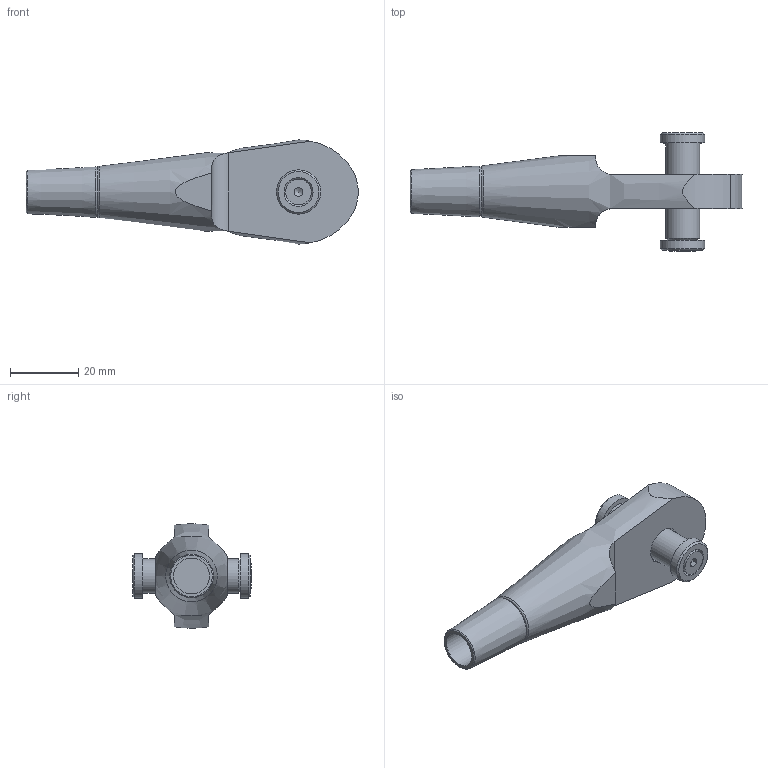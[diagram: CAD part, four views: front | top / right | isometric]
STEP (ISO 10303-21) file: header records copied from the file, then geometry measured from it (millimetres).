
FILE_DESCRIPTION(/* description */ (''),/* implementation_level */ '2;1');
FILE_NAME(/* name */ 'G:\Engineering\700 CAD\Internet-PX-1-step-igs-dxf\520-OES-Arbeitsdateien\520-010-OES.stp',/* time_stamp */ '2020-06-26T10:07:34+02:00',/* author */ ('schwarz'),/* organization */ (''),/* preprocessor_version */ 'ST-DEVELOPER v16.1',/* originating_system */ 'Autodesk Inventor 2016',/* authorisation */ '');
FILE_SCHEMA (('AUTOMOTIVE_DESIGN { 1 0 10303 214 3 1 1 }'));
Length unit declared in the file: centimetre
Products named in the file (1): 520-010-OES-KMU-Kunde
Bounding box: 97.45 x 34.78 x 30.54 mm (x, y, z)
Volume: 24981.6 mm3; surface area: 8802.7 mm2
Topology: 2 solids, 3 shells, 49 faces, 108 edges, 70 vertices
Faces by surface type: plane 22, cylinder 14, cone 12, torus 1
Full cylindrical faces by diameter (mm): 3.242 x1, 4 x1, 4.5 x1, 7.53 x1, 10 x1, 10.5 x1, 11 x1, 13 x2
Entity records: 1342 total; most frequent: CARTESIAN_POINT 304, DIRECTION 198, ORIENTED_EDGE 158, AXIS2_PLACEMENT_3D 89, EDGE_CURVE 79, EDGE_LOOP 78, VERTEX_POINT 63, STYLED_ITEM 51
